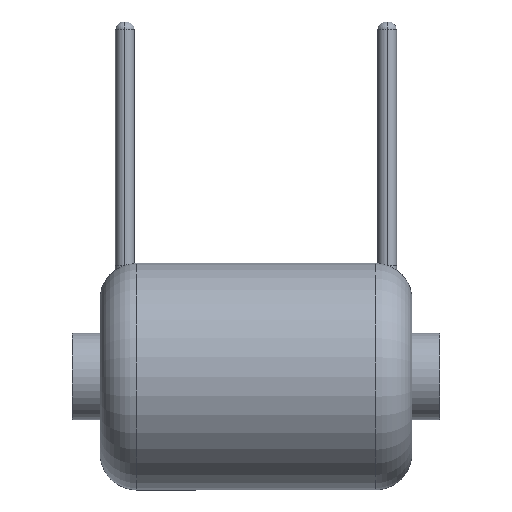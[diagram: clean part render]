
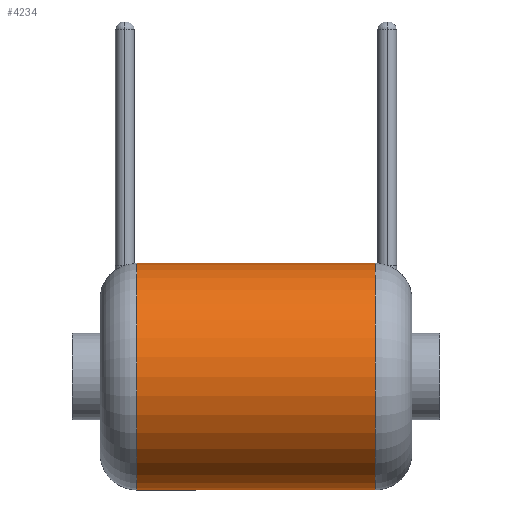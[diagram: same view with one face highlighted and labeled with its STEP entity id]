
A CAD part, left-side view. The second image highlights one B-rep face of the part: STEP entity #4234.
In plain terms, the highlighted cylindrical face has radius 12.319 mm (diameter 24.638 mm), a partial arc.
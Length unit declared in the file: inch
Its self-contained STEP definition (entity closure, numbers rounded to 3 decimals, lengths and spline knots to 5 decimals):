
#63 = DIRECTION ( 'NONE',  ( 0., 0., 1. ) ) ;
#540 = EDGE_CURVE ( 'NONE', #10950, #8868, #14251, .T. ) ;
#904 = CARTESIAN_POINT ( 'NONE',  ( 0., 0.27659, 0.485 ) ) ;
#1036 = DIRECTION ( 'NONE',  ( 0., 1., 0. ) ) ;
#1291 = LINE ( 'NONE', #13784, #13932 ) ;
#1550 = ORIENTED_EDGE ( 'NONE', *, *, #11433, .F. ) ;
#2794 = VERTEX_POINT ( 'NONE', #7823 ) ;
#3488 = DIRECTION ( 'NONE',  ( 0., 1., 0. ) ) ;
#3572 = ORIENTED_EDGE ( 'NONE', *, *, #12035, .T. ) ;
#3981 = DIRECTION ( 'NONE',  ( 0., 1., 0. ) ) ;
#4198 = CARTESIAN_POINT ( 'NONE',  ( 0., 1.57148, 0.485 ) ) ;
#4234 = ADVANCED_FACE ( 'NONE', ( #4286 ), #5753, .T. ) ;
#4286 = FACE_OUTER_BOUND ( 'NONE', #6264, .T. ) ;
#5499 = CARTESIAN_POINT ( 'NONE',  ( 0., 1.57148, 0. ) ) ;
#5753 = CYLINDRICAL_SURFACE ( 'NONE', #13018, 0.485 ) ;
#5971 = CARTESIAN_POINT ( 'NONE',  ( 0., 0.27659, 0. ) ) ;
#6137 = CARTESIAN_POINT ( 'NONE',  ( 0., 1.29489, 0.485 ) ) ;
#6188 = VERTEX_POINT ( 'NONE', #14341 ) ;
#6219 = CIRCLE ( 'NONE', #12799, 0.485 ) ;
#6264 = EDGE_LOOP ( 'NONE', ( #1550, #3572, #9574, #7449 ) ) ;
#7449 = ORIENTED_EDGE ( 'NONE', *, *, #12206, .F. ) ;
#7823 = CARTESIAN_POINT ( 'NONE',  ( 0., 1.29489, -0.485 ) ) ;
#8868 = VERTEX_POINT ( 'NONE', #6137 ) ;
#9441 = DIRECTION ( 'NONE',  ( 0., 0., 1. ) ) ;
#9574 = ORIENTED_EDGE ( 'NONE', *, *, #540, .T. ) ;
#10877 = VECTOR ( 'NONE', #1036, 39.37008 ) ;
#10950 = VERTEX_POINT ( 'NONE', #904 ) ;
#11104 = CIRCLE ( 'NONE', #15127, 0.485 ) ;
#11433 = EDGE_CURVE ( 'NONE', #6188, #2794, #1291, .T. ) ;
#11852 = CARTESIAN_POINT ( 'NONE',  ( 0., 1.29489, 0. ) ) ;
#12035 = EDGE_CURVE ( 'NONE', #6188, #10950, #6219, .T. ) ;
#12206 = EDGE_CURVE ( 'NONE', #2794, #8868, #11104, .T. ) ;
#12338 = DIRECTION ( 'NONE',  ( 0., 0., 1. ) ) ;
#12799 = AXIS2_PLACEMENT_3D ( 'NONE', #5971, #13054, #63 ) ;
#13018 = AXIS2_PLACEMENT_3D ( 'NONE', #5499, #14079, #9441 ) ;
#13054 = DIRECTION ( 'NONE',  ( 0., 1., 0. ) ) ;
#13784 = CARTESIAN_POINT ( 'NONE',  ( 0., 1.57148, -0.485 ) ) ;
#13932 = VECTOR ( 'NONE', #3981, 39.37008 ) ;
#14079 = DIRECTION ( 'NONE',  ( 0., 1., 0. ) ) ;
#14251 = LINE ( 'NONE', #4198, #10877 ) ;
#14341 = CARTESIAN_POINT ( 'NONE',  ( 0., 0.27659, -0.485 ) ) ;
#15127 = AXIS2_PLACEMENT_3D ( 'NONE', #11852, #3488, #12338 ) ;
